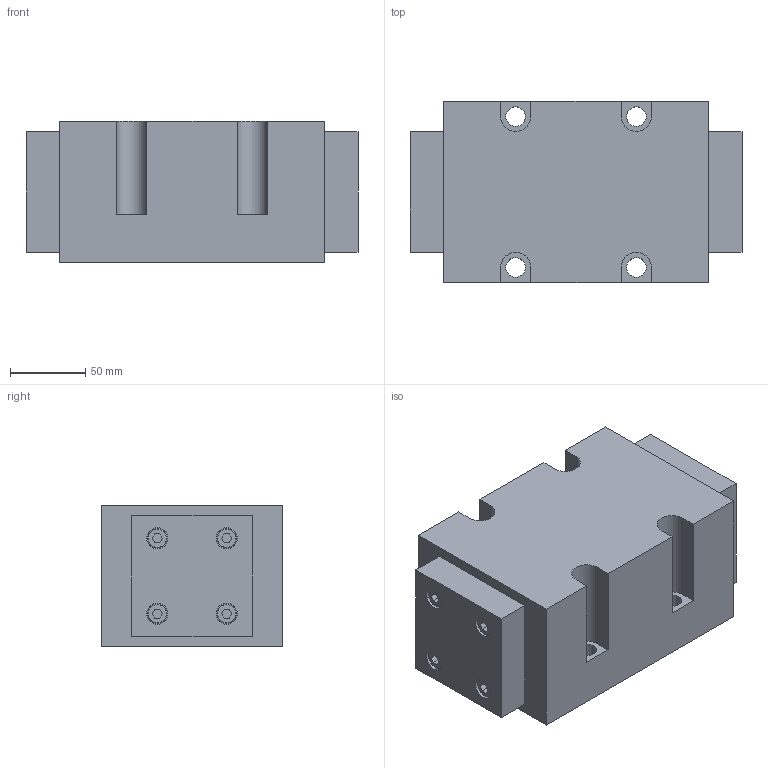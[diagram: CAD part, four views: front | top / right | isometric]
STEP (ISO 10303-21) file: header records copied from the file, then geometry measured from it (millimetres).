
FILE_DESCRIPTION(/* description */ (''),/* implementation_level */ '2;1');
FILE_NAME(/* name */ '15-1.stp',/* time_stamp */ '2023-05-01T20:39:52+08:00',/* author */ (''),/* organization */ (''),/* preprocessor_version */ 'ST-DEVELOPER v16.7',/* originating_system */ 'SIEMENS PLM Software NX 12.0',/* authorisation */ '');
FILE_SCHEMA (('AUTOMOTIVE_DESIGN { 1 0 10303 214 3 1 1 1 }'));
Length unit declared in the file: millimetre
Products named in the file (1): 15-1
Bounding box: 220 x 120 x 94 mm (x, y, z)
Volume: 2137029.7 mm3; surface area: 177221.9 mm2
Topology: 11 solids, 11 shells, 250 faces, 623 edges, 414 vertices
Faces by surface type: plane 153, cylinder 70, cone 19, torus 8
Full cylindrical faces by diameter (mm): 6.8 x8, 8 x8, 9 x8, 13 x14, 14 x8, 18 x1, 20 x2, 28 x1
Entity records: 6770 total; most frequent: DIRECTION 1162, CARTESIAN_POINT 1114, ORIENTED_EDGE 976, EDGE_CURVE 488, AXIS2_PLACEMENT_3D 423, EDGE_LOOP 394, VERTEX_POINT 375, LINE 316
